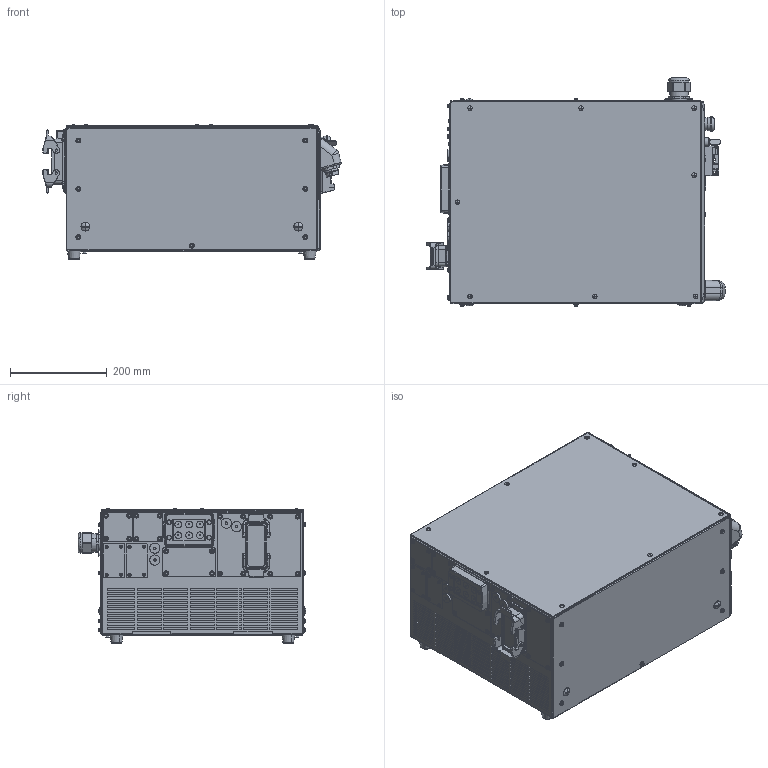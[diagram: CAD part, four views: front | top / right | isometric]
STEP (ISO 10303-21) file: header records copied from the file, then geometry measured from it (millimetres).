
FILE_DESCRIPTION(('CATIA V5 STEP Exchange'),'2;1');
FILE_NAME('D:\モデリング\☆☆☆CONTROLLER\210118_F0x\元データ\CATIA\③最新_ロゴありデータ貰いなおし_210119\軽量化\Part\F01_CONTROLLER.stp','2021-01-22T06:56:02+00:00',('none'),('none'),'CATIA Version 5-6 Release 2016 SP6 HF14','CATIA V5 STEP AP203','none');
FILE_SCHEMA(('CONFIG_CONTROL_DESIGN'));
Products named in the file (1): F01_CONTROLLER
Bounding box: 617.82 x 472.01 x 279 mm (x, y, z)
Volume: 57967848.8 mm3; surface area: 1049180.7 mm2
Topology: 1 solids, 1 shells, 4636 faces, 11849 edges, 7735 vertices
Faces by surface type: plane 2911, cylinder 946, bspline 397, torus 152, sphere 138, cone 71, extrusion 17, revolution 4
Entity records: 150691 total; most frequent: CARTESIAN_POINT 48278, ORIENTED_EDGE 23462, DIRECTION 16335, EDGE_CURVE 11731, VERTEX_POINT 7735, VECTOR 7711, LINE 7694, AXIS2_PLACEMENT_3D 5329
